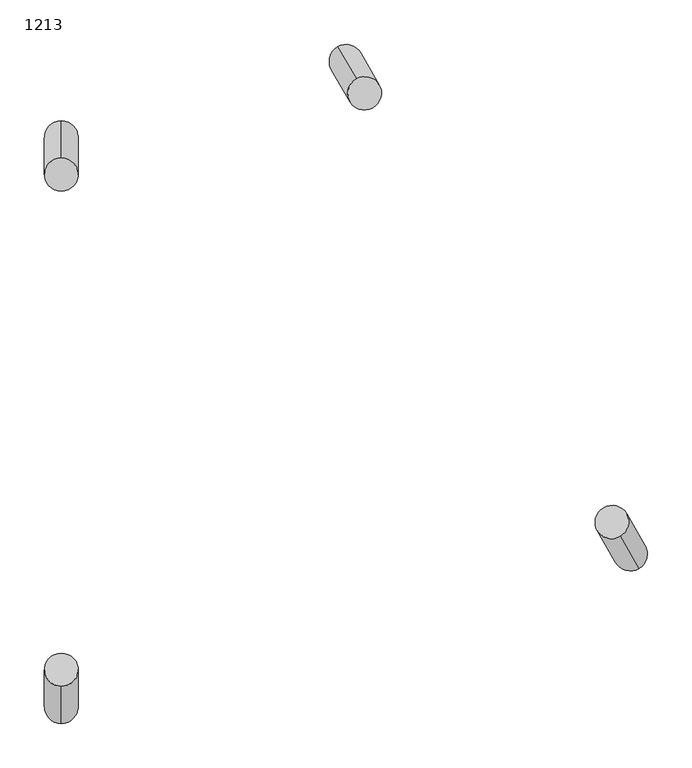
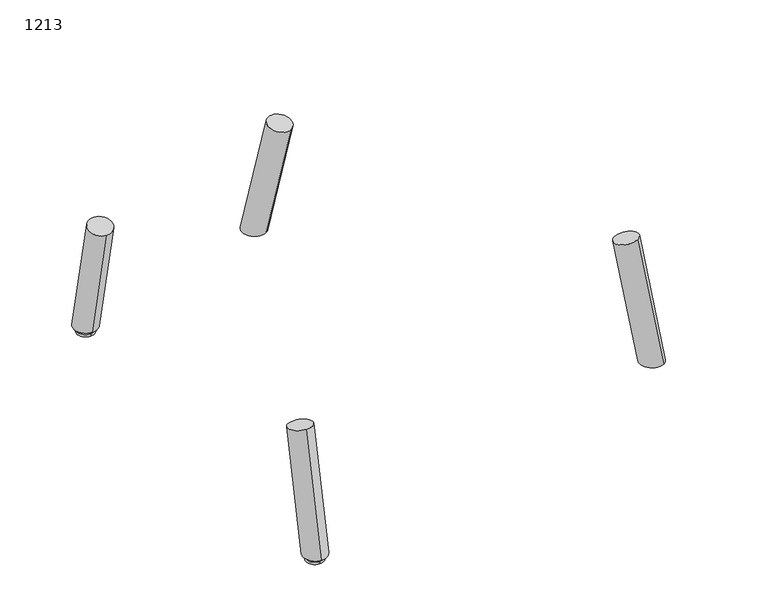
"""IFC4 building model written with IfcOpenShell, lengths in millimetres: furniture geometry, Laguna-Modular-Outside_Curve-ERG : 1213."""

import ifcopenshell
import ifcopenshell.guid

model = None  # the IFC model being written
_history = None  # IfcOwnerHistory: only IFC2X3 demands one
_inside = {}  # id of a spatial element -> (the spatial element, [elements in it])
_under = {}  # id of a project, library or spatial element -> (it, [spatial elements below it])
_declared = {}  # id of a project -> (the project, [libraries it declares])
_typed = {}  # id of a type object -> (the type object, [elements of that type])
_made_of = {}  # id of a material, layer set ... -> (it, [elements and type objects made of it])


def new_model(schema):
    """Start an empty IFC model of exactly this schema.

    Asked for "IFC4X3", IfcOpenShell would pick the latest addendum, in which some entities
    have other attributes; the version numbers below select the first issue.
    IFC2X3 requires an IfcOwnerHistory on every rooted entity: one is made here for all.
    """
    global model, _history
    if schema == "IFC4X3":
        model = ifcopenshell.file(schema_version=(4, 3, 0, 0))
    else:
        model = ifcopenshell.file(schema=schema)
    _inside.clear()
    _under.clear()
    _declared.clear()
    _typed.clear()
    _made_of.clear()
    _history = None
    if model.schema == "IFC2X3":
        org = make("IfcOrganization", Name="unknown")
        user = make(
            "IfcPersonAndOrganization",
            ThePerson=make("IfcPerson", FamilyName="unknown"),
            TheOrganization=org,
        )
        app = make(
            "IfcApplication",
            ApplicationDeveloper=org,
            Version="unknown",
            ApplicationFullName="unknown",
            ApplicationIdentifier="unknown",
        )
        _history = make(
            "IfcOwnerHistory",
            OwningUser=user,
            OwningApplication=app,
            ChangeAction="ADDED",
            CreationDate=0,
        )
    return model


def make(cls, **values):
    """One entity of the class cls with the attributes given. An attribute that is None is left unset."""
    return model.create_entity(
        cls, **{name: value for name, value in values.items() if value is not None}
    )


def rooted(cls, **values):
    """An entity with a GlobalId (a new one), such as an element, a storey or a relation."""
    return make(cls, GlobalId=ifcopenshell.guid.new(), OwnerHistory=_history, **values)


def si_unit(unit_type, name, prefix=None):
    """IfcSIUnit, for example si_unit("LENGTHUNIT", "METRE", prefix="MILLI")."""
    return make("IfcSIUnit", UnitType=unit_type, Prefix=prefix, Name=name)


def assignment(units):
    """IfcUnitAssignment: the units of a project."""
    return None if units is None else make("IfcUnitAssignment", Units=units)


def point(xyz):
    """IfcCartesianPoint."""
    return None if xyz is None else make("IfcCartesianPoint", Coordinates=xyz)


def direction(xyz):
    """IfcDirection."""
    return None if xyz is None else make("IfcDirection", DirectionRatios=xyz)


def frame(location, z_axis=None, x_axis=None):
    """IfcAxis2Placement3D, a coordinate frame: its origin and axes. An axis left out is left unset."""
    return make(
        "IfcAxis2Placement3D",
        Location=point(location),
        Axis=direction(z_axis),
        RefDirection=direction(x_axis),
    )


def origin():
    """The frame at (0, 0, 0) with its axes left unset."""
    return frame((0.0, 0.0, 0.0))


def place(relative_to, where):
    """IfcLocalPlacement: puts the frame where relative to a parent placement (None: the world)."""
    return make(
        "IfcLocalPlacement", PlacementRelTo=relative_to, RelativePlacement=where
    )


def context(
    kind, dimensions, precision=None, world=None, true_north=None, identifier=None
):
    """IfcGeometricRepresentationContext, for example the 3D "Model" context."""
    return make(
        "IfcGeometricRepresentationContext",
        ContextIdentifier=identifier,
        ContextType=kind,
        CoordinateSpaceDimension=dimensions,
        Precision=precision,
        WorldCoordinateSystem=world,
        TrueNorth=true_north,
    )


def project(units=None, contexts=None):
    """IfcProject with its units and contexts."""
    return rooted(
        "IfcProject",
        Name="project",
        RepresentationContexts=contexts,
        UnitsInContext=assignment(units),
    )


def spatial(cls, under=None, at=None, **own):
    """A site, building, storey or space (cls), placed at a placement, below another one or the project."""
    s = rooted(cls, ObjectPlacement=at, **own)
    if under is not None:
        _under.setdefault(under.id(), (under, []))[1].append(s)
    return s


def circle_curve(where, radius):
    """IfcCircle in the frame where."""
    return make("IfcCircle", Position=where, Radius=radius)


def ellipse_curve(where, semi_axis1, semi_axis2):
    """IfcEllipse in the frame where."""
    return make(
        "IfcEllipse", Position=where, SemiAxis1=semi_axis1, SemiAxis2=semi_axis2
    )


def shape(context_of_items, identifier, shape_type, items):
    """IfcShapeRepresentation: the items that make up one representation, for example the "Body"."""
    return make(
        "IfcShapeRepresentation",
        ContextOfItems=context_of_items,
        RepresentationIdentifier=identifier,
        RepresentationType=shape_type,
        Items=items,
    )


def source(mapping_origin, context_of_items, identifier, shape_type, items):
    """IfcRepresentationMap: a shape defined once, which mapped items show again and again."""
    return make(
        "IfcRepresentationMap",
        MappingOrigin=mapping_origin,
        MappedRepresentation=shape(context_of_items, identifier, shape_type, items),
    )


def transform(
    local_origin,
    x_axis=None,
    y_axis=None,
    z_axis=None,
    scale=None,
    scale2=None,
    scale3=None,
    uniform=True,
):
    """IfcCartesianTransformationOperator3D, or its non-uniform kind. x_axis, y_axis, z_axis: its Axis1, 2, 3."""
    if uniform:
        return make(
            "IfcCartesianTransformationOperator3D",
            Axis1=direction(x_axis),
            Axis2=direction(y_axis),
            LocalOrigin=point(local_origin),
            Scale=scale,
            Axis3=direction(z_axis),
        )
    return make(
        "IfcCartesianTransformationOperator3DnonUniform",
        Axis1=direction(x_axis),
        Axis2=direction(y_axis),
        LocalOrigin=point(local_origin),
        Scale=scale,
        Axis3=direction(z_axis),
        Scale2=scale2,
        Scale3=scale3,
    )


def mapped(mapping_source, mapping_target):
    """IfcMappedItem: shows the shape of a source again, moved by a transform."""
    return make(
        "IfcMappedItem", MappingSource=mapping_source, MappingTarget=mapping_target
    )


def made_of(thing, what):
    """Note that an element or type object is made of a material, layer set ...; save() writes the relation."""
    if what is not None:
        _made_of.setdefault(what.id(), (what, []))[1].append(thing)
    return thing


def element(
    cls,
    number,
    at=None,
    inside=None,
    cuts=None,
    type_object=None,
    material=None,
    context=None,
    identifier="Body",
    shape_type=None,
    held_by="IfcProductDefinitionShape",
    body=None,
    shapes=None,
    **own,
):
    """One element of the class cls, such as IfcWall. Its Tag is "e" and its number.

    at: its placement. inside: the storey or other place that contains it. cuts: it is an
    opening in that element (IfcRelVoidsElement). A single representation is given by context,
    identifier, shape_type and body (its items); several are given by shapes. held_by: the class
    of the entity that holds the representations. save() writes the other relations.
    """
    e = rooted(cls, Tag="e%d" % number, ObjectPlacement=at, **own)
    if body is not None:
        shapes = [shape(context, identifier, shape_type, body)]
    if shapes is not None:
        e.Representation = make(held_by, Representations=shapes)
    if inside is not None:
        _inside.setdefault(inside.id(), (inside, []))[1].append(e)
    if cuts is not None:
        rooted(
            "IfcRelVoidsElement", RelatingBuildingElement=cuts, RelatedOpeningElement=e
        )
    if type_object is not None:
        _typed.setdefault(type_object.id(), (type_object, []))[1].append(e)
    return made_of(e, material)


def aggregate(whole, parts):
    """IfcRelAggregates: a whole, such as a stair, and the parts it consists of."""
    return rooted("IfcRelAggregates", RelatingObject=whole, RelatedObjects=parts)


def save(model, path):
    """Write the relations noted so far, then the file.

    IfcRelAggregates (storeys below a building ...), IfcRelContainedInSpatialStructure (elements
    in a storey), IfcRelDefinesByType, IfcRelAssociatesMaterial and IfcRelDeclares: one each for
    every whole, place, type object, material and project.
    """
    for whole, parts in _under.values():
        aggregate(whole, parts)
    for where, things in _inside.values():
        rooted(
            "IfcRelContainedInSpatialStructure",
            RelatedElements=things,
            RelatingStructure=where,
        )
    for kind, things in _typed.values():
        rooted("IfcRelDefinesByType", RelatedObjects=things, RelatingType=kind)
    for what, things in _made_of.values():
        rooted("IfcRelAssociatesMaterial", RelatedObjects=things, RelatingMaterial=what)
    for by, libraries in _declared.values():
        rooted("IfcRelDeclares", RelatingContext=by, RelatedDefinitions=libraries)
    model.write(path)


def plane_surface(at):
    """IfcPlane: the flat surface through the origin of the frame at, square to its z axis."""
    return make("IfcPlane", Position=at)


def cylinder_surface(at, radius):
    """IfcCylindricalSurface: all points at the distance radius from the z axis of the frame at."""
    return make("IfcCylindricalSurface", Position=at, Radius=radius)


def advanced_brep(points, edges, surfaces, faces):
    """IfcAdvancedBrep: a solid bounded by faces that lie on surfaces and meet in shared edges.

    An edge is (start, end): straight between two places in points (the first is 0);
    or (start, end, curve); or (start, end, curve, False) where it runs against its curve.
    A face is (place in surfaces, loops), or (place, loops, False) where it looks against
    its surface's normal. A loop lists edges by number (the first is 1), with a minus sign
    where the edge is run from its end to its start. The first loop is the outer one.
    """
    corners = [point(p) for p in points]
    vertices = [make("IfcVertexPoint", VertexGeometry=c) for c in corners]
    made = []
    for start, end, *more in edges:
        made.append(
            make(
                "IfcEdgeCurve",
                EdgeStart=vertices[start],
                EdgeEnd=vertices[end],
                EdgeGeometry=more[0] if more else make("IfcPolyline", Points=[corners[start], corners[end]]),
                SameSense=more[1] if len(more) > 1 else True,
            )
        )
    hull = []
    for where, loops, *sense in faces:
        bounds = []
        for j, loop in enumerate(loops):
            ring = [make("IfcOrientedEdge", EdgeElement=made[abs(k) - 1], Orientation=k > 0) for k in loop]
            bounds.append(
                make(
                    "IfcFaceOuterBound" if j == 0 else "IfcFaceBound",
                    Bound=make("IfcEdgeLoop", EdgeList=ring),
                    Orientation=True,
                )
            )
        hull.append(make("IfcAdvancedFace", Bounds=bounds, FaceSurface=surfaces[where], SameSense=sense[0] if sense else True))
    return make("IfcAdvancedBrep", Outer=make("IfcClosedShell", CfsFaces=hull))


def furniture_1213_8662ca24(model_context):
    return source(origin(), model_context, "Body", "AdvancedBrep", [
        advanced_brep(
        [(-4643.2737656, 337.5968832, 10.16), (-4643.2737656, 341.8399313, 10.16), (-4643.2737656, 333.353835, 10.16), (-4643.2737656, 323.5185297, 0.0), (-4643.2737656, 351.6752366, 0.0), (-4643.2737656, 337.5968832, 0.0), (-4643.2737656, 323.5185297, 3.9615026), (-4643.2737656, 351.6752366, 3.9615026), (-4643.2737656, 333.353835, 3.9615026), (-4643.2737656, 341.8399313, 3.9615026)],
        [
            (0, 1),
            (1, 2, circle_curve(frame((-4643.2737656, 337.5968832, 10.16), z_axis=(0.0, 0.0, 1.0), x_axis=(0.0, 1.0, 0.0)), 4.2430482)),
            (2, 0),
            (2, 1, circle_curve(frame((-4643.2737656, 337.5968832, 10.16), z_axis=(0.0, 0.0, 1.0), x_axis=(0.0, 1.0, 0.0)), 4.2430482)),
            (3, 4, circle_curve(frame((-4643.2737656, 337.5968832, 0.0), z_axis=(0.0, 0.0, -1.0), x_axis=(0.0, 1.0, 0.0)), 14.0783534)),
            (4, 5),
            (5, 3),
            (4, 3, circle_curve(frame((-4643.2737656, 337.5968832, 0.0), z_axis=(0.0, 0.0, -1.0), x_axis=(0.0, 1.0, 0.0)), 14.0783534)),
            (6, 7, circle_curve(frame((-4643.2737656, 337.5968832, 3.9615026), z_axis=(0.0, 0.0, -1.0), x_axis=(0.0, 1.0, 0.0)), 14.0783534)),
            (7, 4),
            (3, 6),
            (7, 6, circle_curve(frame((-4643.2737656, 337.5968832, 3.9615026), z_axis=(0.0, 0.0, -1.0), x_axis=(0.0, 1.0, 0.0)), 14.0783534)),
            (8, 9, circle_curve(frame((-4643.2737656, 337.5968832, 3.9615026), z_axis=(0.0, 0.0, -1.0), x_axis=(0.0, 1.0, 0.0)), 4.2430482)),
            (9, 7),
            (6, 8),
            (9, 8, circle_curve(frame((-4643.2737656, 337.5968832, 3.9615026), z_axis=(0.0, 0.0, -1.0), x_axis=(0.0, 1.0, 0.0)), 4.2430482)),
            (1, 9),
            (8, 2),
        ],
        [
            plane_surface(frame((-4643.2737656, 337.5968832, 10.16), z_axis=(0.0, 0.0, 1.0), x_axis=(0.0, 1.0, 0.0))),
            plane_surface(frame((-4643.2737656, 337.5968832, 0.0), z_axis=(0.0, 0.0, -1.0), x_axis=(0.0, 1.0, 0.0))),
            cylinder_surface(frame((-4643.2737656, 337.5968832, 10.16), z_axis=(0.0, 0.0, 1.0), x_axis=(0.0, 1.0, 0.0)), 14.0783534),
            plane_surface(frame((-4643.2737656, 337.5968832, 3.9615026), z_axis=(0.0, 0.0, 1.0), x_axis=(0.0, 1.0, 0.0))),
            cylinder_surface(frame((-4643.2737656, 337.5968832, 10.16), z_axis=(0.0, 0.0, 1.0), x_axis=(0.0, 1.0, 0.0)), 4.2430482),
        ],
        [
            (0, [[1, 2, 3]]),
            (0, [[-3, 4, -1]]),
            (1, [[5, 6, 7]]),
            (1, [[8, -7, -6]]),
            (2, [[9, 10, -5, 11]]),
            (2, [[12, -11, -8, -10]]),
            (3, [[13, 14, -9, 15]]),
            (3, [[16, -15, -12, -14]]),
            (4, [[-2, 17, -13, 18]]),
            (4, [[-4, -18, -16, -17]]),
        ],
    ),
        advanced_brep(
        [(-4643.2737656, 976.2268276, 10.16), (-4643.2737656, 980.4698758, 10.16), (-4643.2737656, 971.9837794, 10.16), (-4643.2737656, 962.1484742, 0.0), (-4643.2737656, 990.305181, 0.0), (-4643.2737656, 976.2268276, 0.0), (-4643.2737656, 962.1484742, 3.9615026), (-4643.2737656, 990.305181, 3.9615026), (-4643.2737656, 971.9837794, 3.9615026), (-4643.2737656, 980.4698758, 3.9615026)],
        [
            (0, 1),
            (1, 2, circle_curve(frame((-4643.2737656, 976.2268276, 10.16), z_axis=(0.0, 0.0, 1.0), x_axis=(0.0, 1.0, 0.0)), 4.2430482)),
            (2, 0),
            (2, 1, circle_curve(frame((-4643.2737656, 976.2268276, 10.16), z_axis=(0.0, 0.0, 1.0), x_axis=(0.0, 1.0, 0.0)), 4.2430482)),
            (3, 4, circle_curve(frame((-4643.2737656, 976.2268276, 0.0), z_axis=(0.0, 0.0, -1.0), x_axis=(0.0, 1.0, 0.0)), 14.0783534)),
            (4, 5),
            (5, 3),
            (4, 3, circle_curve(frame((-4643.2737656, 976.2268276, 0.0), z_axis=(0.0, 0.0, -1.0), x_axis=(0.0, 1.0, 0.0)), 14.0783534)),
            (6, 7, circle_curve(frame((-4643.2737656, 976.2268276, 3.9615026), z_axis=(0.0, 0.0, -1.0), x_axis=(0.0, 1.0, 0.0)), 14.0783534)),
            (7, 4),
            (3, 6),
            (7, 6, circle_curve(frame((-4643.2737656, 976.2268276, 3.9615026), z_axis=(0.0, 0.0, -1.0), x_axis=(0.0, 1.0, 0.0)), 14.0783534)),
            (8, 9, circle_curve(frame((-4643.2737656, 976.2268276, 3.9615026), z_axis=(0.0, 0.0, -1.0), x_axis=(0.0, 1.0, 0.0)), 4.2430482)),
            (9, 7),
            (6, 8),
            (9, 8, circle_curve(frame((-4643.2737656, 976.2268276, 3.9615026), z_axis=(0.0, 0.0, -1.0), x_axis=(0.0, 1.0, 0.0)), 4.2430482)),
            (1, 9),
            (8, 2),
        ],
        [
            plane_surface(frame((-4643.2737656, 976.2268276, 10.16), z_axis=(0.0, 0.0, 1.0), x_axis=(0.0, 1.0, 0.0))),
            plane_surface(frame((-4643.2737656, 976.2268276, 0.0), z_axis=(0.0, 0.0, -1.0), x_axis=(0.0, 1.0, 0.0))),
            cylinder_surface(frame((-4643.2737656, 976.2268276, 10.16), z_axis=(0.0, 0.0, 1.0), x_axis=(0.0, 1.0, 0.0)), 14.0783534),
            plane_surface(frame((-4643.2737656, 976.2268276, 3.9615026), z_axis=(0.0, 0.0, 1.0), x_axis=(0.0, 1.0, 0.0))),
            cylinder_surface(frame((-4643.2737656, 976.2268276, 10.16), z_axis=(0.0, 0.0, 1.0), x_axis=(0.0, 1.0, 0.0)), 4.2430482),
        ],
        [
            (0, [[1, 2, 3]]),
            (0, [[-3, 4, -1]]),
            (1, [[5, 6, 7]]),
            (1, [[8, -7, -6]]),
            (2, [[9, 10, -5, 11]]),
            (2, [[12, -11, -8, -10]]),
            (3, [[13, 14, -9, 15]]),
            (3, [[16, -15, -12, -14]]),
            (4, [[-2, 17, -13, 18]]),
            (4, [[-4, -18, -16, -17]]),
        ],
    ),
        advanced_brep(
        [(-4032.7903652, 560.37242, 199.2392823), (-4014.1566534, 528.0978845, 207.1607177), (-4012.6953441, 525.5668226, 10.16), (-3993.2197558, 491.8341141, 10.16)],
        [
            (0, 1, circle_curve(frame((-4023.4735093, 544.2351523, 203.2), z_axis=(-0.10395584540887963, 0.18005680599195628, 0.9781476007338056), x_axis=(0.4890738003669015, -0.8471006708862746, 0.20791169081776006)), 19.05)),
            (1, 0, circle_curve(frame((-4023.4735093, 544.2351523, 203.2), z_axis=(-0.10395584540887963, 0.18005680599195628, 0.9781476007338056), x_axis=(0.4890738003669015, -0.8471006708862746, 0.20791169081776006)), 19.05)),
            (0, 2),
            (2, 3, ellipse_curve(frame((-4002.95755, 508.7004683, 10.16), z_axis=(0.0, 0.0, 1.0), x_axis=(-0.49999999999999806, 0.8660254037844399, 0.0)), 19.4755883, 19.05)),
            (3, 1),
            (3, 2, ellipse_curve(frame((-4002.95755, 508.7004683, 10.16), z_axis=(0.0, 0.0, 1.0), x_axis=(-0.49999999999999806, 0.8660254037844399, 0.0)), 19.4755883, 19.05)),
        ],
        [
            plane_surface(frame((-4023.4735093, 544.2351523, 203.2), z_axis=(-0.10395584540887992, 0.1800568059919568, 0.9781476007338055), x_axis=(-0.8660254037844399, -0.49999999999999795, 0.0))),
            cylinder_surface(frame((-4023.4735093, 544.2351523, 203.2), z_axis=(-0.10395584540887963, 0.18005680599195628, 0.9781476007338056), x_axis=(0.4890738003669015, -0.8471006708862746, 0.20791169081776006)), 19.05),
            plane_surface(frame((-5060.079825, 1515.284486, 10.16), z_axis=(0.0, 0.0, -1.0), x_axis=(-1.0, 0.0, 0.0))),
        ],
        [
            (0, [[1, 2]]),
            (1, [[-1, 3, 4, 5]]),
            (1, [[-2, -5, 6, -3]]),
            (2, [[-4, -6]]),
        ],
    ),
        advanced_brep(
        [(-4311.3077326, 1042.7786512, 207.1607177), (-4292.6740208, 1010.5041156, 199.2392823), (-4332.2446302, 1079.0424216, 10.16), (-4312.7690419, 1045.3097131, 10.16)],
        [
            (0, 1, circle_curve(frame((-4301.9908767, 1026.6413834, 203.2), z_axis=(0.10395584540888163, -0.18005680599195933, 0.9781476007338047), x_axis=(0.48907380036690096, -0.8471006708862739, -0.20791169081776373)), 19.05)),
            (1, 0, circle_curve(frame((-4301.9908767, 1026.6413834, 203.2), z_axis=(0.10395584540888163, -0.18005680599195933, 0.9781476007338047), x_axis=(0.48907380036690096, -0.8471006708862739, -0.20791169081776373)), 19.05)),
            (0, 2),
            (2, 3, ellipse_curve(frame((-4322.506836, 1062.1760673, 10.16), z_axis=(0.0, 0.0, 1.0), x_axis=(0.4999999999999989, -0.8660254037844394, 0.0)), 19.4755883, 19.05)),
            (3, 1),
            (3, 2, ellipse_curve(frame((-4322.506836, 1062.1760673, 10.16), z_axis=(0.0, 0.0, 1.0), x_axis=(0.4999999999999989, -0.8660254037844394, 0.0)), 19.4755883, 19.05)),
        ],
        [
            plane_surface(frame((-4301.9908767, 1026.6413834, 203.2), z_axis=(0.10395584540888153, -0.18005680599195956, 0.9781476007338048), x_axis=(-0.8660254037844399, -0.49999999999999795, 0.0))),
            cylinder_surface(frame((-4301.9908767, 1026.6413834, 203.2), z_axis=(0.10395584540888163, -0.18005680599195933, 0.9781476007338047), x_axis=(0.48907380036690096, -0.8471006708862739, -0.20791169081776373)), 19.05),
            plane_surface(frame((-5060.079825, 1515.284486, 10.16), z_axis=(0.0, 0.0, -1.0), x_axis=(-1.0, 0.0, 0.0))),
        ],
        [
            (0, [[1, 2]]),
            (1, [[-1, 3, 4, 5]]),
            (1, [[-2, -5, 6, -3]]),
            (2, [[-4, -6]]),
        ],
    ),
        advanced_brep(
        [(-4643.2737656, 916.5611971, 199.2392823), (-4643.2737656, 953.8286207, 207.1607177), (-4643.2737656, 956.7512393, 10.16), (-4643.2737656, 995.7024159, 10.16)],
        [
            (0, 1, circle_curve(frame((-4643.2737656, 935.1949089, 203.2), z_axis=(0.0, -0.20791169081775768, 0.978147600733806), x_axis=(0.0, 0.978147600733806, 0.20791169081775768)), 19.05)),
            (1, 0, circle_curve(frame((-4643.2737656, 935.1949089, 203.2), z_axis=(0.0, -0.20791169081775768, 0.978147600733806), x_axis=(0.0, 0.978147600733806, 0.20791169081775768)), 19.05)),
            (0, 2),
            (2, 3, ellipse_curve(frame((-4643.2737656, 976.2268276, 10.16), z_axis=(0.0, 0.0, 1.0), x_axis=(0.0, -1.0, 0.0)), 19.4755883, 19.05)),
            (3, 1),
            (3, 2, ellipse_curve(frame((-4643.2737656, 976.2268276, 10.16), z_axis=(0.0, 0.0, 1.0), x_axis=(0.0, -1.0, 0.0)), 19.4755883, 19.05)),
        ],
        [
            plane_surface(frame((-4643.2737656, 935.1949089, 203.2), z_axis=(0.0, -0.20791169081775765, 0.978147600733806), x_axis=(1.0, 0.0, 0.0))),
            cylinder_surface(frame((-4643.2737656, 935.1949089, 203.2), z_axis=(0.0, -0.20791169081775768, 0.978147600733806), x_axis=(0.0, 0.978147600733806, 0.20791169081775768)), 19.05),
            plane_surface(frame((-5060.079825, 1515.284486, 10.16), z_axis=(0.0, 0.0, -1.0), x_axis=(-1.0, 0.0, 0.0))),
        ],
        [
            (0, [[1, 2]]),
            (1, [[-1, 3, 4, 5]]),
            (1, [[-2, -5, 6, -3]]),
            (2, [[-4, -6]]),
        ],
    ),
        advanced_brep(
        [(-4643.2737656, 359.5264623, 207.1607177), (-4643.2737656, 396.7938859, 199.2392823), (-4643.2737656, 317.6526671, 10.16), (-4643.2737656, 356.6038438, 10.16)],
        [
            (0, 1, circle_curve(frame((-4643.2737656, 378.1601741, 203.2), z_axis=(0.0, 0.20791169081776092, 0.9781476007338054), x_axis=(0.0, 0.9781476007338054, -0.20791169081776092)), 19.05)),
            (1, 0, circle_curve(frame((-4643.2737656, 378.1601741, 203.2), z_axis=(0.0, 0.20791169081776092, 0.9781476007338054), x_axis=(0.0, 0.9781476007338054, -0.20791169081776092)), 19.05)),
            (0, 2),
            (2, 3, ellipse_curve(frame((-4643.2737656, 337.1282555, 10.16), z_axis=(0.0, 0.0, 1.0), x_axis=(0.0, 1.0, 0.0)), 19.4755883, 19.05)),
            (3, 1),
            (3, 2, ellipse_curve(frame((-4643.2737656, 337.1282555, 10.16), z_axis=(0.0, 0.0, 1.0), x_axis=(0.0, 1.0, 0.0)), 19.4755883, 19.05)),
        ],
        [
            plane_surface(frame((-4643.2737656, 378.1601741, 203.2), z_axis=(0.0, 0.20791169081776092, 0.9781476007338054), x_axis=(1.0, 0.0, 0.0))),
            cylinder_surface(frame((-4643.2737656, 378.1601741, 203.2), z_axis=(0.0, 0.20791169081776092, 0.9781476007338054), x_axis=(0.0, 0.9781476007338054, -0.20791169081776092)), 19.05),
            plane_surface(frame((-5060.079825, 1515.284486, 10.16), z_axis=(0.0, 0.0, -1.0), x_axis=(-1.0, 0.0, 0.0))),
        ],
        [
            (0, [[1, 2]]),
            (1, [[-1, 3, 4, 5]]),
            (1, [[-2, -5, 6, -3]]),
            (2, [[-4, -6]]),
        ],
    ),
    ])


if __name__ == "__main__":
    model = new_model("IFC4")
    model_context = context("Model", 3, world=origin())
    ifc_project = project(units=[si_unit("LENGTHUNIT", "METRE", prefix="MILLI")], contexts=[model_context])
    site = spatial("IfcSite", under=ifc_project)
    building = spatial("IfcBuilding", under=site)
    placement = place(None, origin())
    furniture_1213_shape = furniture_1213_8662ca24(model_context)
    element("IfcFurniture", 1, ObjectType="Laguna-Modular-Outside_Curve-ERG : 1213", at=placement, inside=building, context=model_context, shape_type="MappedRepresentation", body=[
        mapped(furniture_1213_shape, transform((0.0, 0.0, 0.0), x_axis=(1.0, 0.0, 0.0), y_axis=(0.0, 1.0, 0.0), z_axis=(0.0, 0.0, 1.0))),
    ])
    save(model, "model.ifc")
